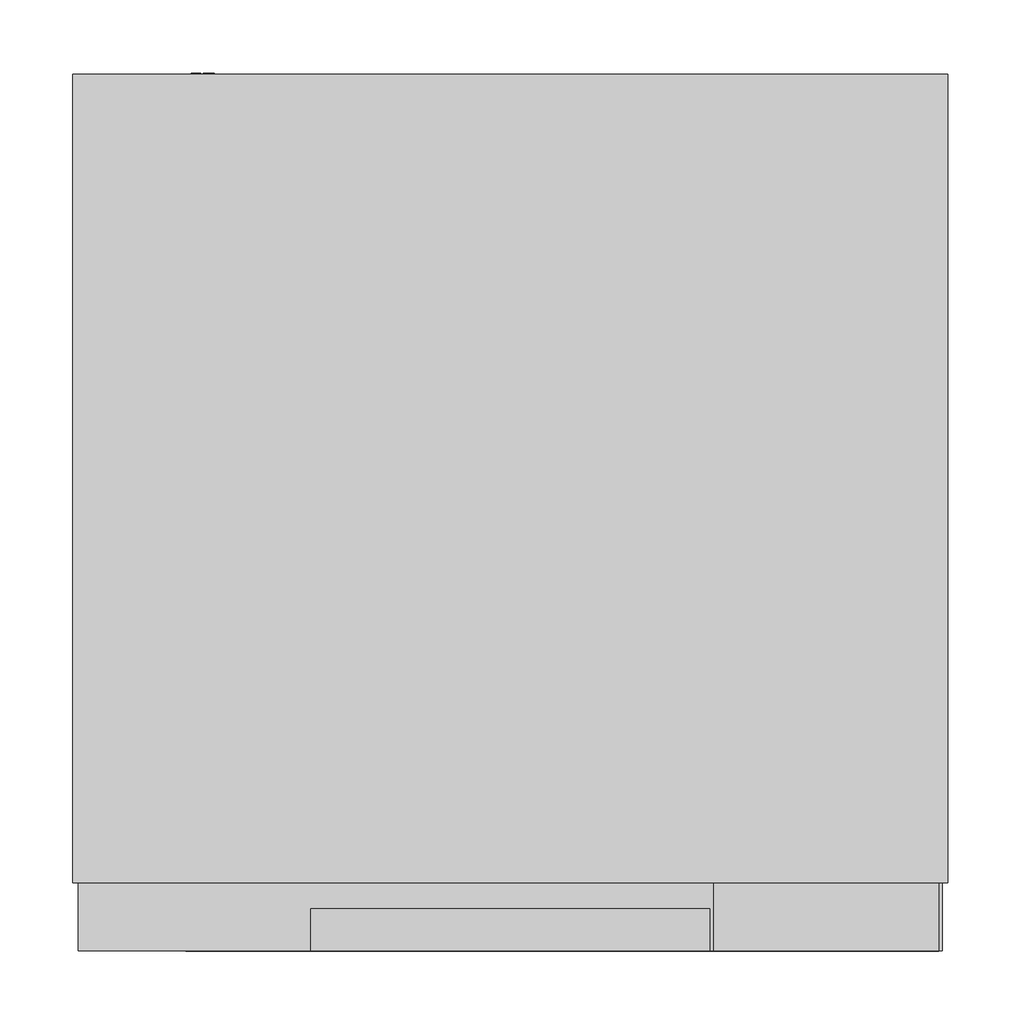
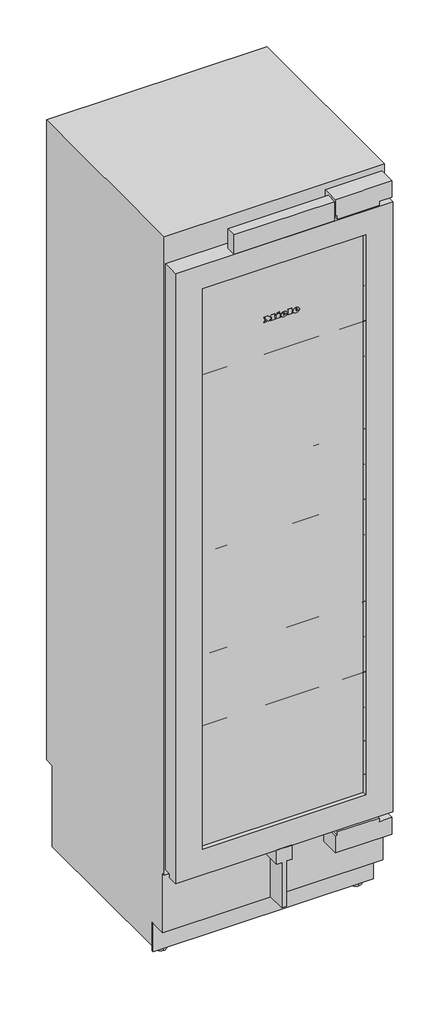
# Not in any storey: 1 proxy.
"""IFC4 building model written with IfcOpenShell, lengths in millimetres."""

from ifc_helpers import new_model, si_unit, origin, place, context, project, spatial, transform, mapped, element, save
from components import specialty_equipment_8097dcfd, specialty_equipment_b9ffa979, specialty_equipment_7431087e, specialty_equipment_e5b69a9d

model = new_model("IFC4")

# Units and contexts
model_context = context("Model", 3, world=origin())
ifc_project = project(units=[si_unit("LENGTHUNIT", "METRE", prefix="MILLI")], contexts=[model_context])

# Site, building
site = spatial("IfcSite", under=ifc_project)
building = spatial("IfcBuilding", under=site)

# Proxy
placement = place(None, origin())
specialty_equipment_shape = specialty_equipment_8097dcfd(model_context)
specialty_equipment_2_shape = specialty_equipment_b9ffa979(model_context)
specialty_equipment_3_shape = specialty_equipment_7431087e(model_context)
specialty_equipment_4_shape = specialty_equipment_e5b69a9d(model_context)
element("IfcBuildingElementProxy", 1, Name="11503590_USA_KWT2602Vi : 36260205_USA_11503590_KWT2602Vi", ObjectType="11503590_USA_KWT2602Vi : 36260205_USA_11503590_KWT2602Vi", at=placement, inside=building, context=model_context, shape_type="MappedRepresentation", body=[
    mapped(specialty_equipment_shape, transform((0.0, 0.0, 0.0), x_axis=(1.0, 0.0, 0.0), y_axis=(0.0, 1.0, 0.0), z_axis=(0.0, 0.0, 1.0))),
    mapped(specialty_equipment_2_shape, transform((0.0, 0.0, 0.0), x_axis=(1.0, 0.0, 0.0), y_axis=(0.0, 1.0, 0.0), z_axis=(0.0, 0.0, 1.0))),
    mapped(specialty_equipment_3_shape, transform((0.0, 0.0, 0.0), x_axis=(1.0, 0.0, 0.0), y_axis=(0.0, 1.0, 0.0), z_axis=(0.0, 0.0, 1.0))),
    mapped(specialty_equipment_4_shape, transform((0.0, 0.0, 0.0), x_axis=(1.0, 0.0, 0.0), y_axis=(0.0, 1.0, 0.0), z_axis=(0.0, 0.0, 1.0))),
])

save(model, "model.ifc")
